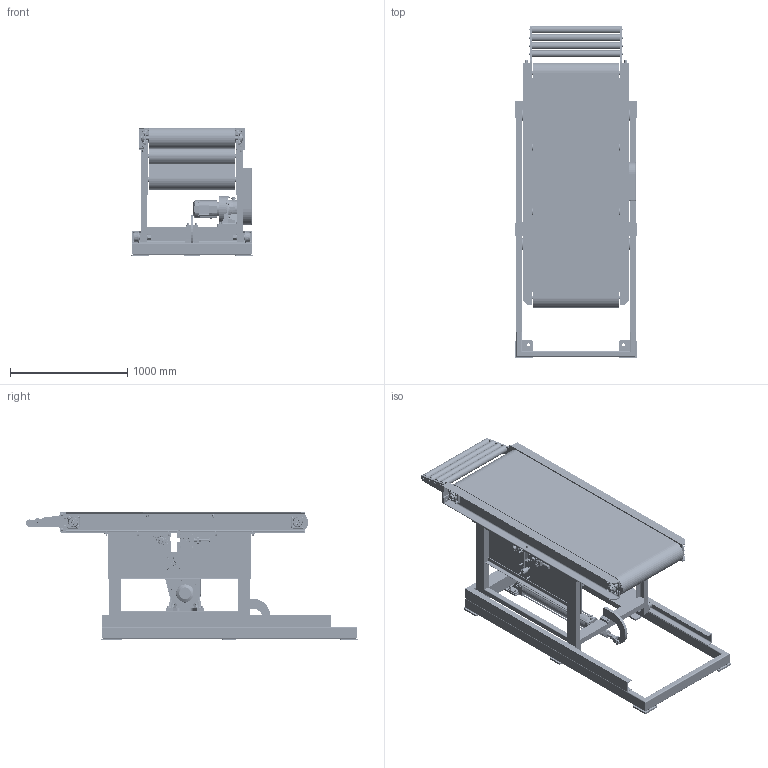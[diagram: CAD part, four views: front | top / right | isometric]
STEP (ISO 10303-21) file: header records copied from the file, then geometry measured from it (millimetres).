
FILE_DESCRIPTION(/* description */ (''),/* implementation_level */ '2;1');
FILE_NAME(/* name */ 'beltconveyor_a104_w750_l2000.stp',/* time_stamp */ '2025-01-06T20:56:46+08:00',/* author */ (''),/* organization */ (''),/* preprocessor_version */ 'ST-DEVELOPER v16.7',/* originating_system */ 'SIEMENS PLM Software NX 12.0',/* authorisation */ '');
FILE_SCHEMA (('AUTOMOTIVE_DESIGN { 1 0 10303 214 3 1 1 1 }'));
Products named in the file (167): JIS 40 x 40 x 5 00000006; JIS 40 x 40 x 5 00000010; JIS 40 x 40 x 5 00000005; JIS 180 x 75 x 7 00000002; JIS 40 x 40 x 5 00000007; JIS 40 x 40 x 5 00000009; JIS 180 x 75 x 7 00000001; JIS 40 x 40 x 5 00000008; JIS 40 x 40 x 5 00000003; JIS 40 x 40 x 5 00000004; JIS 40 x 40 x 5 00000011; JIS 100 x 50 x 3.2 00000004; JIS 100 x 50 x 5 00000002; JIS 100 x 50 x 3.2 00000006; JIS 100 x 50 x 3.2 00000007; JIS 100 x 50 x 3.2 00000005; JIS 100 x 50 x 5 00000001; JIS 100 x 50 x 5 00000003; JIS 50 x 50 x 2.3 00000026; JIS 100 x 50 x 5 00000013; JIS 40 x 40 x 5 00000023; JIS 40 x 40 x 5 00000018; JIS 40 x 40 x 5 00000019; JIS 40 x 40 x 5 00000024; JIS 100 x 50 x 5 00000010; JIS 40 x 40 x 5 00000025; JIS 100 x 50 x 5 00000012; JIS 100 x 50 x 5 00000015; JIS 100 x 50 x 5 00000014; JIS 100 x 50 x 5 00000011; CT-004-02; CT-004-01; CT-004-03; CT-020-01; CT-020; CT-020-02; Part31-1; CT-002-03; CT-002-02; CT-002-01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
Assembly tree (422 placements, depth 4):
  beltconveyor_a104_w750_l2000
    CT-006  x2
    P212_AS4211F-04-10A  x2
      Part14
    P513_M8 x 20 (喔副喔CS.)  x4
    P506_M5 x 12 (喔副喔о笀喔  x6
    P207_MLM35
      Part7
      Part5
    CT-015
      CT-015-02
      CT-015-01
    P500_M10 x 25 (喔副喔о笀喔  x20
    CT-018  x4
    P508_SPW-M12  x8
    P509_M6 x 20 (喔副喔о笀喔  x16
    P504_M10 x 35 (喔副喔о笀喔  x16
    P202_UCF207-35  x2
    P505_SPW-M10  x32
    CT-005
      CT-005-01  x2
      CT-005-07
      CT-005-06  x4
      CT-005-04  x4
      CT-005-05  x4
      CT-005-08
      CT-005-02
      Frame0001-1
        JIS 100 x 50 x 5 00000011
        JIS 100 x 50 x 5 00000014
        JIS 100 x 50 x 5 00000015
        JIS 100 x 50 x 5 00000012
        JIS 40 x 40 x 5 00000025
        JIS 100 x 50 x 5 00000010
        JIS 40 x 40 x 5 00000024
        JIS 40 x 40 x 5 00000019
        JIS 40 x 40 x 5 00000018
        JIS 40 x 40 x 5 00000023
        JIS 100 x 50 x 5 00000013
        JIS 50 x 50 x 2.3 00000026
      CT-005-03
    P217_STWN15  x8
    P206_SP60B-21-N-50
    P520_M6 x 16 (喔副喔о笀喔  x4
    P515_M16 x 30 (喔副喔о笀喔  x4
    CT-013  x4
    P516_SPW-M16  x8
    CT-014
      CT-014-2  x4
      CT-014-1  x2
      Frame0001-2
        JIS 100 x 50 x 5 00000003
        JIS 100 x 50 x 5 00000001
        JIS 100 x 50 x 3.2 00000005
        JIS 100 x 50 x 3.2 00000007
        JIS 100 x 50 x 3.2 00000006
        JIS 100 x 50 x 5 00000002
        JIS 100 x 50 x 3.2 00000004
      CT-014-3
    P510_NUT-M18  x2
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Bounding box: 1036.7 x 2825.87 x 1097 mm (x, y, z)
Volume: 122307473.3 mm3; surface area: 35297450 mm2
Topology: 493 solids, 494 shells, 15482 faces, 37451 edges, 23216 vertices
Faces by surface type: cylinder 5079, plane 4568, torus 2716, cone 2174, extrusion 369, bspline 297, sphere 279
Entity records: 246037 total; most frequent: CARTESIAN_POINT 62491, ORIENTED_EDGE 36022, DIRECTION 35145, EDGE_CURVE 18011, AXIS2_PLACEMENT_3D 13352, VERTEX_POINT 11470, VECTOR 8441, EDGE_LOOP 8183
